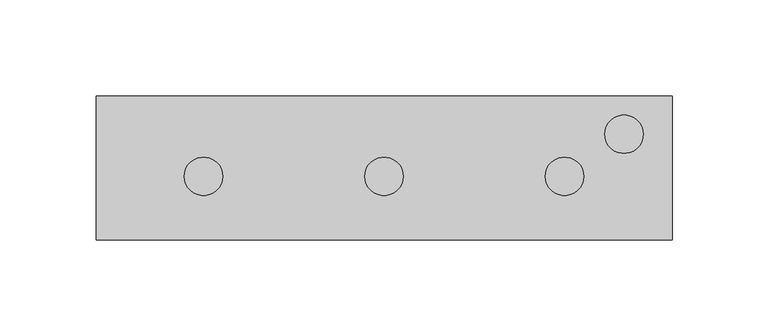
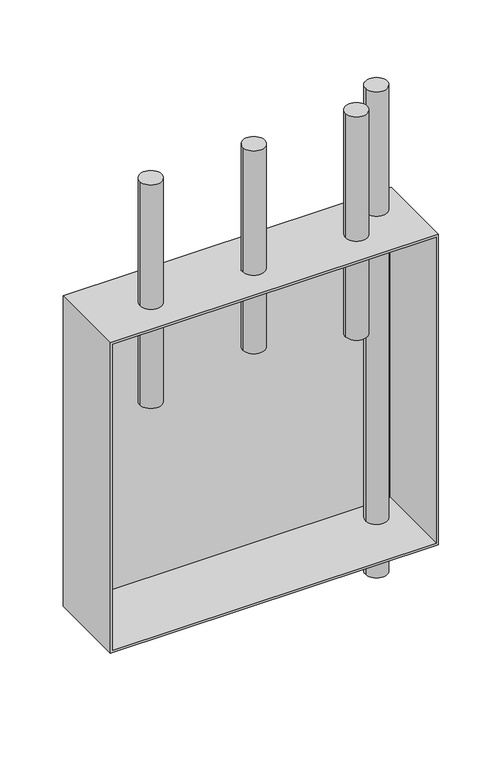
"""IFC4 building model written with IfcOpenShell, lengths in millimetres: flow terminal geometry, Plumbing Fixtures_Thermostatic Mixing Valve_Thornthwaite_Rada 215dk TMV Cold Feed in 300mm box : Rada 215dk TMV in an exposed box with Lid and Cold Feed - 40861EB300CF."""

from ifc_helpers import new_model, si_unit, point, frame, frame_2d, origin, place, context, project, spatial, circle_curve, trimmed, segment, composite_curve, outline, extrude, faceted_brep, source, transform, mapped, element, save


def flow_terminal_54447bbb(model_context):
    return source(origin(), model_context, "Body", "SolidModel", [
        extrude(outline(composite_curve([segment(trimmed(circle_curve(frame_2d((125.0, 17.5)), 10.0), [point((135.0, 17.5))], [point((115.0, 17.5))], False, "CARTESIAN"), True, "CONTINUOUS"), segment(trimmed(circle_curve(frame_2d((125.0, 17.5)), 10.0), [point((115.0, 17.5))], [point((135.0, 17.5))], False, "CARTESIAN"), True, "CONTINUOUS")], self_intersect=False)), frame((0.0, 0.0, 470.0), z_axis=(0.0, 0.0, 1.0), x_axis=(1.0, 0.0, 0.0)), (0.0, 0.0, 1.0), 470.0),
        extrude(outline(composite_curve([segment(trimmed(circle_curve(frame_2d((-94.0, -4.5)), 10.0), [point((-84.0, -4.5))], [point((-104.0, -4.5))], False, "CARTESIAN"), True, "CONTINUOUS"), segment(trimmed(circle_curve(frame_2d((-94.0, -4.5)), 10.0), [point((-104.0, -4.5))], [point((-84.0, -4.5))], False, "CARTESIAN"), True, "CONTINUOUS")], self_intersect=False)), frame((0.0, 0.0, 724.0), z_axis=(0.0, 0.0, 1.0), x_axis=(1.0, 0.0, 0.0)), (0.0, 0.0, 1.0), 216.0),
        extrude(outline(composite_curve([segment(trimmed(circle_curve(frame_2d((94.0, -4.5)), 10.0), [point((104.0, -4.5))], [point((84.0, -4.5))], False, "CARTESIAN"), True, "CONTINUOUS"), segment(trimmed(circle_curve(frame_2d((94.0, -4.5)), 10.0), [point((84.0, -4.5))], [point((104.0, -4.5))], False, "CARTESIAN"), True, "CONTINUOUS")], self_intersect=False)), frame((0.0, 0.0, 724.0), z_axis=(0.0, 0.0, 1.0), x_axis=(1.0, 0.0, 0.0)), (0.0, 0.0, 1.0), 216.0),
        extrude(outline(composite_curve([segment(trimmed(circle_curve(frame_2d((0.0, -4.5)), 10.0), [point((10.0, -4.5))], [point((-10.0, -4.5))], False, "CARTESIAN"), True, "CONTINUOUS"), segment(trimmed(circle_curve(frame_2d((0.0, -4.5)), 10.0), [point((-10.0, -4.5))], [point((10.0, -4.5))], False, "CARTESIAN"), True, "CONTINUOUS")], self_intersect=False)), frame((0.0, 0.0, 744.0), z_axis=(0.0, 0.0, 1.0), x_axis=(1.0, 0.0, 0.0)), (0.0, 0.0, 1.0), 196.0),
        faceted_brep([(-150.0, -37.5, 520.0), (150.0, -37.5, 520.0), (150.0, -37.5, 820.0), (-150.0, -37.5, 820.0), (-148.0, -37.5, 818.0), (148.0, -37.5, 818.0), (148.0, -37.5, 522.0), (-148.0, -37.5, 522.0), (-150.0, 37.5, 520.0), (-150.0, 37.5, 820.0), (150.0, 37.5, 820.0), (150.0, 37.5, 520.0), (-148.0, 35.5, 522.0), (-148.0, 35.5, 818.0), (148.0, 35.5, 522.0), (148.0, 35.5, 818.0)], [[[0, 1, 2, 3], [4, 5, 6, 7]], [[8, 9, 10, 11]], [[0, 3, 9, 8]], [[3, 2, 10, 9]], [[2, 1, 11, 10]], [[1, 0, 8, 11]], [[4, 7, 12, 13]], [[7, 6, 14, 12]], [[6, 5, 15, 14]], [[5, 4, 13, 15]], [[13, 12, 14, 15]]]),
    ])


if __name__ == "__main__":
    model = new_model("IFC4")
    model_context = context("Model", 3, world=origin())
    ifc_project = project(units=[si_unit("LENGTHUNIT", "METRE", prefix="MILLI")], contexts=[model_context])
    site = spatial("IfcSite", under=ifc_project)
    building = spatial("IfcBuilding", under=site)
    placement = place(None, origin())
    flow_terminal_shape = flow_terminal_54447bbb(model_context)
    element("IfcFlowTerminal", 1, ObjectType="Plumbing Fixtures_Thermostatic Mixing Valve_Thornthwaite_Rada 215dk TMV Cold Feed in 300mm box : Rada 215dk TMV in an exposed box with Lid and Cold Feed - 40861EB300CF", at=placement, inside=building, context=model_context, shape_type="MappedRepresentation", body=[
        mapped(flow_terminal_shape, transform((0.0, 0.0, 0.0), x_axis=(1.0, 0.0, 0.0), y_axis=(0.0, 1.0, 0.0), z_axis=(0.0, 0.0, 1.0))),
    ])
    save(model, "model.ifc")
